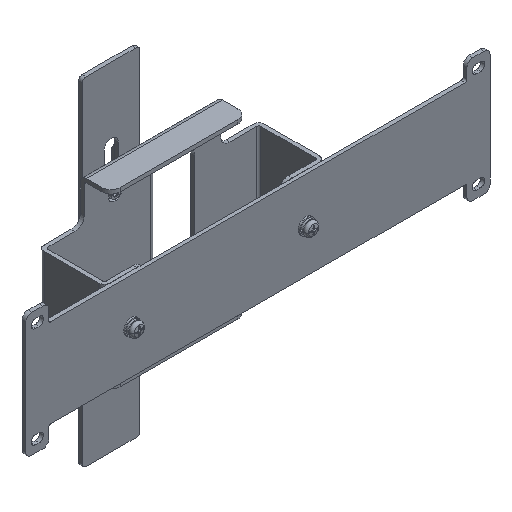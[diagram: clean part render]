
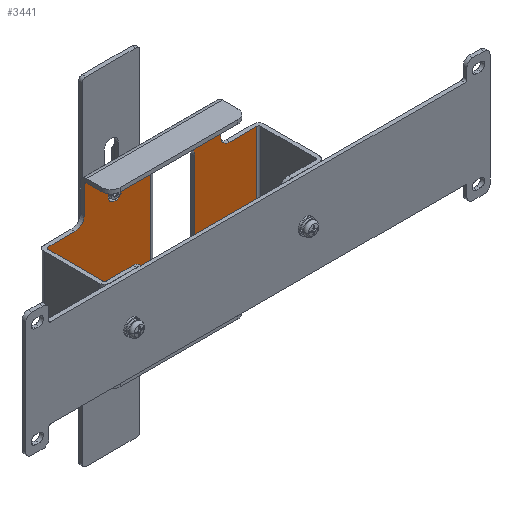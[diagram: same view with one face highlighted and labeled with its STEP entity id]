
A CAD part, isometric view. The second image highlights one B-rep face of the part: STEP entity #3441.
In plain terms, the highlighted planar face has unit normal (0, -1, 0).
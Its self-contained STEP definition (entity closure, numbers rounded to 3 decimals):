
#1787=DIRECTION('',(0.,0.,1.));
#1788=VECTOR('',#1787,46.1);
#1789=CARTESIAN_POINT('',(-75.,8.,-23.05));
#1790=LINE('',#1789,#1788);
#1791=DIRECTION('',(1.,0.,0.));
#1792=VECTOR('',#1791,14.);
#1793=CARTESIAN_POINT('',(-75.,8.,23.05));
#1794=LINE('',#1793,#1792);
#1795=DIRECTION('',(0.,0.,-1.));
#1796=VECTOR('',#1795,13.95);
#1797=CARTESIAN_POINT('',(-56.,8.,42.));
#1798=LINE('',#1797,#1796);
#1799=DIRECTION('',(1.,0.,0.));
#1800=VECTOR('',#1799,71.);
#1801=CARTESIAN_POINT('',(-56.,8.,42.));
#1802=LINE('',#1801,#1800);
#1803=DIRECTION('',(0.,0.,1.));
#1804=VECTOR('',#1803,13.95);
#1805=CARTESIAN_POINT('',(15.,8.,28.05));
#1806=LINE('',#1805,#1804);
#1807=DIRECTION('',(-1.,0.,0.));
#1808=VECTOR('',#1807,14.);
#1809=CARTESIAN_POINT('',(34.,8.,23.05));
#1810=LINE('',#1809,#1808);
#1811=DIRECTION('',(0.,0.,1.));
#1812=VECTOR('',#1811,46.1);
#1813=CARTESIAN_POINT('',(34.,8.,-23.05));
#1814=LINE('',#1813,#1812);
#1815=DIRECTION('',(-1.,0.,0.));
#1816=VECTOR('',#1815,14.);
#1817=CARTESIAN_POINT('',(34.,8.,-23.05));
#1818=LINE('',#1817,#1816);
#1819=DIRECTION('',(0.,0.,1.));
#1820=VECTOR('',#1819,13.95);
#1821=CARTESIAN_POINT('',(15.,8.,-42.));
#1822=LINE('',#1821,#1820);
#1823=DIRECTION('',(-1.,0.,0.));
#1824=VECTOR('',#1823,71.);
#1825=CARTESIAN_POINT('',(15.,8.,-42.));
#1826=LINE('',#1825,#1824);
#1827=DIRECTION('',(0.,0.,-1.));
#1828=VECTOR('',#1827,13.95);
#1829=CARTESIAN_POINT('',(-56.,8.,-28.05));
#1830=LINE('',#1829,#1828);
#1831=DIRECTION('',(1.,0.,0.));
#1832=VECTOR('',#1831,14.);
#1833=CARTESIAN_POINT('',(-75.,8.,-23.05));
#1834=LINE('',#1833,#1832);
#1835=CARTESIAN_POINT('',(-40.,8.,-30.));
#1836=DIRECTION('',(0.,1.,0.));
#1837=DIRECTION('',(0.,0.,-1.));
#1838=AXIS2_PLACEMENT_3D('',#1835,#1836,#1837);
#1840=CARTESIAN_POINT('',(-40.,8.,-30.));
#1841=DIRECTION('',(0.,1.,0.));
#1842=DIRECTION('',(0.,0.,1.));
#1843=AXIS2_PLACEMENT_3D('',#1840,#1841,#1842);
#1845=CARTESIAN_POINT('',(-40.,8.,30.));
#1846=DIRECTION('',(0.,1.,0.));
#1847=DIRECTION('',(0.,0.,-1.));
#1848=AXIS2_PLACEMENT_3D('',#1845,#1846,#1847);
#1850=CARTESIAN_POINT('',(-40.,8.,30.));
#1851=DIRECTION('',(0.,1.,0.));
#1852=DIRECTION('',(0.,0.,1.));
#1853=AXIS2_PLACEMENT_3D('',#1850,#1851,#1852);
#1855=DIRECTION('',(0.,0.,1.));
#1856=VECTOR('',#1855,1.);
#1857=CARTESIAN_POINT('',(-22.1,8.,-30.5));
#1858=LINE('',#1857,#1856);
#1859=DIRECTION('',(-1.,0.,0.));
#1860=VECTOR('',#1859,18.1);
#1861=CARTESIAN_POINT('',(-3.5,8.,-31.));
#1862=LINE('',#1861,#1860);
#1863=DIRECTION('',(0.,0.,-1.));
#1864=VECTOR('',#1863,52.);
#1865=CARTESIAN_POINT('',(1.5,8.,26.));
#1866=LINE('',#1865,#1864);
#1867=DIRECTION('',(1.,0.,0.));
#1868=VECTOR('',#1867,18.1);
#1869=CARTESIAN_POINT('',(-21.6,8.,31.));
#1870=LINE('',#1869,#1868);
#1871=DIRECTION('',(0.,0.,1.));
#1872=VECTOR('',#1871,1.);
#1873=CARTESIAN_POINT('',(-22.1,8.,29.5));
#1874=LINE('',#1873,#1872);
#1875=DIRECTION('',(-1.,0.,0.));
#1876=VECTOR('',#1875,0.1);
#1877=CARTESIAN_POINT('',(-21.5,8.,29.));
#1878=LINE('',#1877,#1876);
#1879=DIRECTION('',(0.,0.,1.));
#1880=VECTOR('',#1879,58.);
#1881=CARTESIAN_POINT('',(-21.5,8.,-29.));
#1882=LINE('',#1881,#1880);
#1883=DIRECTION('',(1.,0.,0.));
#1884=VECTOR('',#1883,0.1);
#1885=CARTESIAN_POINT('',(-21.6,8.,-29.));
#1886=LINE('',#1885,#1884);
#2036=CARTESIAN_POINT('',(-61.,8.,-28.05));
#2037=DIRECTION('',(0.,1.,0.));
#2038=DIRECTION('',(0.,0.,1.));
#2039=AXIS2_PLACEMENT_3D('',#2036,#2037,#2038);
#2122=CARTESIAN_POINT('',(20.,8.,28.05));
#2123=DIRECTION('',(0.,1.,0.));
#2124=DIRECTION('',(0.,0.,-1.));
#2125=AXIS2_PLACEMENT_3D('',#2122,#2123,#2124);
#2248=CARTESIAN_POINT('',(20.,8.,-28.05));
#2249=DIRECTION('',(0.,1.,0.));
#2250=DIRECTION('',(-1.,0.,0.));
#2251=AXIS2_PLACEMENT_3D('',#2248,#2249,#2250);
#2258=CARTESIAN_POINT('',(-61.,8.,28.05));
#2259=DIRECTION('',(0.,1.,0.));
#2260=DIRECTION('',(1.,0.,0.));
#2261=AXIS2_PLACEMENT_3D('',#2258,#2259,#2260);
#2496=CARTESIAN_POINT('',(-21.6,8.,-30.5));
#2497=DIRECTION('',(0.,1.,0.));
#2498=DIRECTION('',(0.,0.,-1.));
#2499=AXIS2_PLACEMENT_3D('',#2496,#2497,#2498);
#2514=CARTESIAN_POINT('',(-21.6,8.,-29.5));
#2515=DIRECTION('',(0.,1.,0.));
#2516=DIRECTION('',(-1.,0.,0.));
#2517=AXIS2_PLACEMENT_3D('',#2514,#2515,#2516);
#2576=CARTESIAN_POINT('',(-21.6,8.,29.5));
#2577=DIRECTION('',(0.,1.,0.));
#2578=DIRECTION('',(0.,0.,-1.));
#2579=AXIS2_PLACEMENT_3D('',#2576,#2577,#2578);
#2594=CARTESIAN_POINT('',(-21.6,8.,30.5));
#2595=DIRECTION('',(0.,1.,0.));
#2596=DIRECTION('',(-1.,0.,0.));
#2597=AXIS2_PLACEMENT_3D('',#2594,#2595,#2596);
#2612=CARTESIAN_POINT('',(-3.5,8.,26.));
#2613=DIRECTION('',(0.,1.,0.));
#2614=DIRECTION('',(0.,0.,1.));
#2615=AXIS2_PLACEMENT_3D('',#2612,#2613,#2614);
#2630=CARTESIAN_POINT('',(-3.5,8.,-26.));
#2631=DIRECTION('',(0.,1.,0.));
#2632=DIRECTION('',(1.,0.,0.));
#2633=AXIS2_PLACEMENT_3D('',#2630,#2631,#2632);
#2804=CARTESIAN_POINT('',(-61.,8.,23.05));
#2806=VERTEX_POINT('',#2804);
#2808=CARTESIAN_POINT('',(-56.,8.,28.05));
#2810=VERTEX_POINT('',#2808);
#2812=CARTESIAN_POINT('',(1.5,8.,26.));
#2814=VERTEX_POINT('',#2812);
#2816=CARTESIAN_POINT('',(-3.5,8.,31.));
#2818=VERTEX_POINT('',#2816);
#2820=CARTESIAN_POINT('',(-3.5,8.,-31.));
#2822=VERTEX_POINT('',#2820);
#2824=CARTESIAN_POINT('',(1.5,8.,-26.));
#2826=VERTEX_POINT('',#2824);
#2847=CARTESIAN_POINT('',(-61.,8.,-23.05));
#2848=CARTESIAN_POINT('',(-56.,8.,-28.05));
#2849=VERTEX_POINT('',#2847);
#2850=VERTEX_POINT('',#2848);
#2923=CARTESIAN_POINT('',(-75.,8.,-23.05));
#2924=CARTESIAN_POINT('',(-75.,8.,23.05));
#2925=VERTEX_POINT('',#2923);
#2926=VERTEX_POINT('',#2924);
#2931=CARTESIAN_POINT('',(-56.,8.,42.));
#2932=CARTESIAN_POINT('',(15.,8.,42.));
#2933=VERTEX_POINT('',#2931);
#2934=VERTEX_POINT('',#2932);
#2939=CARTESIAN_POINT('',(15.,8.,-42.));
#2940=CARTESIAN_POINT('',(-56.,8.,-42.));
#2941=VERTEX_POINT('',#2939);
#2942=VERTEX_POINT('',#2940);
#2959=CARTESIAN_POINT('',(34.,8.,-23.05));
#2960=CARTESIAN_POINT('',(34.,8.,23.05));
#2961=VERTEX_POINT('',#2959);
#2962=VERTEX_POINT('',#2960);
#3011=CARTESIAN_POINT('',(-21.5,8.,29.));
#3013=VERTEX_POINT('',#3011);
#3017=CARTESIAN_POINT('',(-21.5,8.,-29.));
#3018=VERTEX_POINT('',#3017);
#3044=CARTESIAN_POINT('',(15.,8.,28.05));
#3046=VERTEX_POINT('',#3044);
#3048=CARTESIAN_POINT('',(20.,8.,23.05));
#3050=VERTEX_POINT('',#3048);
#3052=CARTESIAN_POINT('',(20.,8.,-23.05));
#3054=VERTEX_POINT('',#3052);
#3056=CARTESIAN_POINT('',(15.,8.,-28.05));
#3058=VERTEX_POINT('',#3056);
#3059=CARTESIAN_POINT('',(-40.,8.,-33.6));
#3060=CARTESIAN_POINT('',(-40.,8.,-26.4));
#3061=VERTEX_POINT('',#3059);
#3062=VERTEX_POINT('',#3060);
#3067=CARTESIAN_POINT('',(-40.,8.,26.4));
#3068=CARTESIAN_POINT('',(-40.,8.,33.6));
#3069=VERTEX_POINT('',#3067);
#3070=VERTEX_POINT('',#3068);
#3076=CARTESIAN_POINT('',(-21.6,8.,-29.));
#3078=VERTEX_POINT('',#3076);
#3080=CARTESIAN_POINT('',(-22.1,8.,-29.5));
#3082=VERTEX_POINT('',#3080);
#3084=CARTESIAN_POINT('',(-22.1,8.,-30.5));
#3086=VERTEX_POINT('',#3084);
#3088=CARTESIAN_POINT('',(-21.6,8.,-31.));
#3090=VERTEX_POINT('',#3088);
#3092=CARTESIAN_POINT('',(-22.1,8.,29.5));
#3094=VERTEX_POINT('',#3092);
#3096=CARTESIAN_POINT('',(-21.6,8.,29.));
#3098=VERTEX_POINT('',#3096);
#3100=CARTESIAN_POINT('',(-21.6,8.,31.));
#3102=VERTEX_POINT('',#3100);
#3104=CARTESIAN_POINT('',(-22.1,8.,30.5));
#3106=VERTEX_POINT('',#3104);
#3363=CARTESIAN_POINT('',(-76.,8.,-75.));
#3364=DIRECTION('',(0.,-1.,0.));
#3365=DIRECTION('',(1.,0.,0.));
#3366=AXIS2_PLACEMENT_3D('',#3363,#3364,#3365);
#3367=PLANE('',#3366);
#3369=ORIENTED_EDGE('',*,*,#3368,.T.);
#3371=ORIENTED_EDGE('',*,*,#3370,.T.);
#3373=ORIENTED_EDGE('',*,*,#3372,.F.);
#3375=ORIENTED_EDGE('',*,*,#3374,.F.);
#3377=ORIENTED_EDGE('',*,*,#3376,.T.);
#3379=ORIENTED_EDGE('',*,*,#3378,.F.);
#3381=ORIENTED_EDGE('',*,*,#3380,.F.);
#3382=ORIENTED_EDGE('',*,*,#3286,.F.);
#3383=ORIENTED_EDGE('',*,*,#3357,.F.);
#3384=ORIENTED_EDGE('',*,*,#3243,.T.);
#3386=ORIENTED_EDGE('',*,*,#3385,.F.);
#3388=ORIENTED_EDGE('',*,*,#3387,.F.);
#3390=ORIENTED_EDGE('',*,*,#3389,.T.);
#3392=ORIENTED_EDGE('',*,*,#3391,.F.);
#3394=ORIENTED_EDGE('',*,*,#3393,.F.);
#3396=ORIENTED_EDGE('',*,*,#3395,.F.);
#3397=EDGE_LOOP('',(#3369,#3371,#3373,#3375,#3377,#3379,#3381,#3382,#3383,#3384,
#3386,#3388,#3390,#3392,#3394,#3396));
#3398=FACE_OUTER_BOUND('',#3397,.F.);
#3400=ORIENTED_EDGE('',*,*,#3399,.F.);
#3402=ORIENTED_EDGE('',*,*,#3401,.F.);
#3403=EDGE_LOOP('',(#3400,#3402));
#3404=FACE_BOUND('',#3403,.F.);
#3406=ORIENTED_EDGE('',*,*,#3405,.F.);
#3408=ORIENTED_EDGE('',*,*,#3407,.F.);
#3409=EDGE_LOOP('',(#3406,#3408));
#3410=FACE_BOUND('',#3409,.F.);
#3412=ORIENTED_EDGE('',*,*,#3411,.F.);
#3414=ORIENTED_EDGE('',*,*,#3413,.F.);
#3416=ORIENTED_EDGE('',*,*,#3415,.F.);
#3418=ORIENTED_EDGE('',*,*,#3417,.F.);
#3420=ORIENTED_EDGE('',*,*,#3419,.F.);
#3422=ORIENTED_EDGE('',*,*,#3421,.F.);
#3424=ORIENTED_EDGE('',*,*,#3423,.F.);
#3426=ORIENTED_EDGE('',*,*,#3425,.F.);
#3428=ORIENTED_EDGE('',*,*,#3427,.F.);
#3430=ORIENTED_EDGE('',*,*,#3429,.F.);
#3432=ORIENTED_EDGE('',*,*,#3431,.F.);
#3434=ORIENTED_EDGE('',*,*,#3433,.F.);
#3436=ORIENTED_EDGE('',*,*,#3435,.F.);
#3438=ORIENTED_EDGE('',*,*,#3437,.F.);
#3439=EDGE_LOOP('',(#3412,#3414,#3416,#3418,#3420,#3422,#3424,#3426,#3428,#3430,
#3432,#3434,#3436,#3438));
#3440=FACE_BOUND('',#3439,.F.);
#3441=ADVANCED_FACE('',(#3398,#3404,#3410,#3440),#3367,.T.);
#1839=CIRCLE('',#1838,3.6);
#1844=CIRCLE('',#1843,3.6);
#1849=CIRCLE('',#1848,3.6);
#1854=CIRCLE('',#1853,3.6);
#2040=CIRCLE('',#2039,5.);
#2126=CIRCLE('',#2125,5.);
#2252=CIRCLE('',#2251,5.);
#2262=CIRCLE('',#2261,5.);
#2500=CIRCLE('',#2499,0.5);
#2518=CIRCLE('',#2517,0.5);
#2580=CIRCLE('',#2579,0.5);
#2598=CIRCLE('',#2597,0.5);
#2616=CIRCLE('',#2615,5.);
#2634=CIRCLE('',#2633,5.);
#3243=EDGE_CURVE('',#2961,#3054,#1818,.T.);
#3286=EDGE_CURVE('',#2962,#3050,#1810,.T.);
#3357=EDGE_CURVE('',#2961,#2962,#1814,.T.);
#3368=EDGE_CURVE('',#2925,#2926,#1790,.T.);
#3370=EDGE_CURVE('',#2926,#2806,#1794,.T.);
#3372=EDGE_CURVE('',#2810,#2806,#2262,.T.);
#3374=EDGE_CURVE('',#2933,#2810,#1798,.T.);
#3376=EDGE_CURVE('',#2933,#2934,#1802,.T.);
#3378=EDGE_CURVE('',#3046,#2934,#1806,.T.);
#3380=EDGE_CURVE('',#3050,#3046,#2126,.T.);
#3385=EDGE_CURVE('',#3058,#3054,#2252,.T.);
#3387=EDGE_CURVE('',#2941,#3058,#1822,.T.);
#3389=EDGE_CURVE('',#2941,#2942,#1826,.T.);
#3391=EDGE_CURVE('',#2850,#2942,#1830,.T.);
#3393=EDGE_CURVE('',#2849,#2850,#2040,.T.);
#3395=EDGE_CURVE('',#2925,#2849,#1834,.T.);
#3399=EDGE_CURVE('',#3061,#3062,#1839,.T.);
#3401=EDGE_CURVE('',#3062,#3061,#1844,.T.);
#3405=EDGE_CURVE('',#3069,#3070,#1849,.T.);
#3407=EDGE_CURVE('',#3070,#3069,#1854,.T.);
#3411=EDGE_CURVE('',#3086,#3082,#1858,.T.);
#3413=EDGE_CURVE('',#3090,#3086,#2500,.T.);
#3415=EDGE_CURVE('',#2822,#3090,#1862,.T.);
#3417=EDGE_CURVE('',#2826,#2822,#2634,.T.);
#3419=EDGE_CURVE('',#2814,#2826,#1866,.T.);
#3421=EDGE_CURVE('',#2818,#2814,#2616,.T.);
#3423=EDGE_CURVE('',#3102,#2818,#1870,.T.);
#3425=EDGE_CURVE('',#3106,#3102,#2598,.T.);
#3427=EDGE_CURVE('',#3094,#3106,#1874,.T.);
#3429=EDGE_CURVE('',#3098,#3094,#2580,.T.);
#3431=EDGE_CURVE('',#3013,#3098,#1878,.T.);
#3433=EDGE_CURVE('',#3018,#3013,#1882,.T.);
#3435=EDGE_CURVE('',#3078,#3018,#1886,.T.);
#3437=EDGE_CURVE('',#3082,#3078,#2518,.T.);
